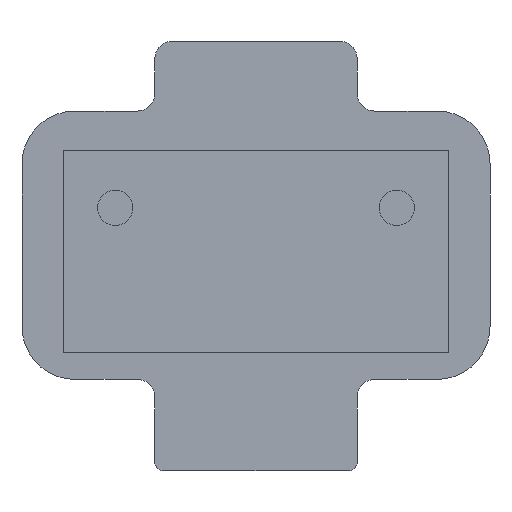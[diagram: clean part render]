
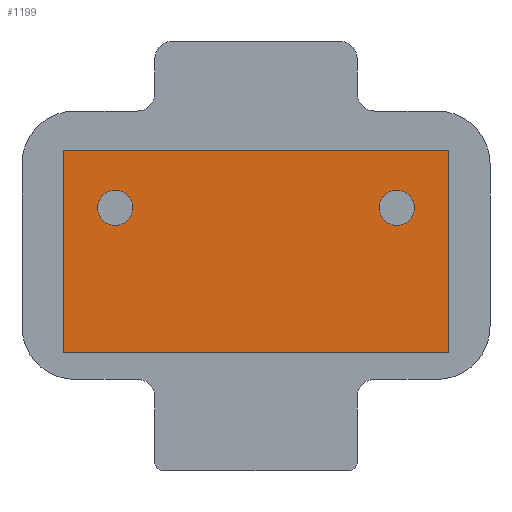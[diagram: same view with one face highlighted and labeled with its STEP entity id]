
A CAD part, front view. The second image highlights one B-rep face of the part: STEP entity #1199.
In plain terms, the highlighted planar face has unit normal (0, -1, 0).
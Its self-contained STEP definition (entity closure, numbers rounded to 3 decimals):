
#42 = ORIENTED_EDGE ( 'NONE', *, *, #6379, .F. ) ;
#385 = EDGE_CURVE ( 'NONE', #8816, #5897, #4876, .T. ) ;
#405 = CARTESIAN_POINT ( 'NONE',  ( -16.916, 1.162, 57.199 ) ) ;
#442 = LINE ( 'NONE', #3177, #4969 ) ;
#550 = CARTESIAN_POINT ( 'NONE',  ( 15.084, 1.162, 57.199 ) ) ;
#735 = EDGE_CURVE ( 'NONE', #3982, #7505, #8423, .T. ) ;
#749 = CARTESIAN_POINT ( 'NONE',  ( 21.584, 1.162, 42.7 ) ) ;
#879 = CARTESIAN_POINT ( 'NONE',  ( -16.916, 1.162, 59.199 ) ) ;
#891 = DIRECTION ( 'NONE',  ( 0., 0., 1. ) ) ;
#933 = LINE ( 'NONE', #5882, #4833 ) ;
#1030 = VERTEX_POINT ( 'NONE', #4109 ) ;
#1199 = ADVANCED_FACE ( 'NONE', ( #2330, #1496, #4246 ), #2936, .F. ) ;
#1397 = CARTESIAN_POINT ( 'NONE',  ( -16.916, 1.162, 59.199 ) ) ;
#1421 = LINE ( 'NONE', #749, #8155 ) ;
#1496 = FACE_BOUND ( 'NONE', #6877, .T. ) ;
#1515 = AXIS2_PLACEMENT_3D ( 'NONE', #1870, #2493, #4438 ) ;
#1565 = EDGE_LOOP ( 'NONE', ( #42, #4115 ) ) ;
#1870 = CARTESIAN_POINT ( 'NONE',  ( 15.084, 1.162, 59.199 ) ) ;
#1926 = EDGE_CURVE ( 'NONE', #8816, #5907, #1421, .T. ) ;
#1943 = CIRCLE ( 'NONE', #1515, 2. ) ;
#1954 = EDGE_CURVE ( 'NONE', #7212, #4529, #4506, .T. ) ;
#2227 = DIRECTION ( 'NONE',  ( -1., 0., 0. ) ) ;
#2330 = FACE_OUTER_BOUND ( 'NONE', #6621, .T. ) ;
#2342 = CIRCLE ( 'NONE', #7384, 2. ) ;
#2493 = DIRECTION ( 'NONE',  ( 0., -1., 0. ) ) ;
#2670 = ORIENTED_EDGE ( 'NONE', *, *, #4228, .F. ) ;
#2685 = ORIENTED_EDGE ( 'NONE', *, *, #735, .F. ) ;
#2708 = CARTESIAN_POINT ( 'NONE',  ( 20.984, 1.162, 76.47 ) ) ;
#2854 = VECTOR ( 'NONE', #4105, 1000. ) ;
#2936 = PLANE ( 'NONE',  #3828 ) ;
#3055 = CARTESIAN_POINT ( 'NONE',  ( 20.984, 1.162, 65.694 ) ) ;
#3152 = ORIENTED_EDGE ( 'NONE', *, *, #1926, .F. ) ;
#3177 = CARTESIAN_POINT ( 'NONE',  ( -22.816, 1.162, 65.694 ) ) ;
#3571 = CARTESIAN_POINT ( 'NONE',  ( -16.362, 1.162, 58.966 ) ) ;
#3626 = ORIENTED_EDGE ( 'NONE', *, *, #4542, .F. ) ;
#3756 = ORIENTED_EDGE ( 'NONE', *, *, #385, .T. ) ;
#3828 = AXIS2_PLACEMENT_3D ( 'NONE', #3571, #6991, #7072 ) ;
#3982 = VERTEX_POINT ( 'NONE', #7774 ) ;
#4105 = DIRECTION ( 'NONE',  ( 0., 0., 1. ) ) ;
#4109 = CARTESIAN_POINT ( 'NONE',  ( -22.816, 1.162, 65.694 ) ) ;
#4115 = ORIENTED_EDGE ( 'NONE', *, *, #1954, .F. ) ;
#4138 = CARTESIAN_POINT ( 'NONE',  ( 15.084, 1.162, 61.199 ) ) ;
#4228 = EDGE_CURVE ( 'NONE', #5907, #1030, #933, .T. ) ;
#4246 = FACE_BOUND ( 'NONE', #1565, .T. ) ;
#4275 = CARTESIAN_POINT ( 'NONE',  ( -22.816, 1.162, 42.7 ) ) ;
#4386 = DIRECTION ( 'NONE',  ( 0., -1., 0. ) ) ;
#4438 = DIRECTION ( 'NONE',  ( -1., 0., 0. ) ) ;
#4506 = CIRCLE ( 'NONE', #5367, 2. ) ;
#4529 = VERTEX_POINT ( 'NONE', #4138 ) ;
#4542 = EDGE_CURVE ( 'NONE', #7505, #3982, #2342, .T. ) ;
#4775 = DIRECTION ( 'NONE',  ( 0., -1., 0. ) ) ;
#4833 = VECTOR ( 'NONE', #891, 1000. ) ;
#4876 = LINE ( 'NONE', #2708, #2854 ) ;
#4936 = CARTESIAN_POINT ( 'NONE',  ( 15.084, 1.162, 59.199 ) ) ;
#4969 = VECTOR ( 'NONE', #8667, 1000. ) ;
#5366 = CARTESIAN_POINT ( 'NONE',  ( 20.984, 1.162, 42.7 ) ) ;
#5367 = AXIS2_PLACEMENT_3D ( 'NONE', #4936, #8209, #2227 ) ;
#5701 = DIRECTION ( 'NONE',  ( -1., 0., 0. ) ) ;
#5882 = CARTESIAN_POINT ( 'NONE',  ( -22.816, 1.162, 44.77 ) ) ;
#5897 = VERTEX_POINT ( 'NONE', #3055 ) ;
#5907 = VERTEX_POINT ( 'NONE', #4275 ) ;
#6379 = EDGE_CURVE ( 'NONE', #4529, #7212, #1943, .T. ) ;
#6443 = EDGE_CURVE ( 'NONE', #1030, #5897, #442, .T. ) ;
#6621 = EDGE_LOOP ( 'NONE', ( #8199, #2670, #3152, #3756 ) ) ;
#6877 = EDGE_LOOP ( 'NONE', ( #2685, #3626 ) ) ;
#6991 = DIRECTION ( 'NONE',  ( 0., 1., 0. ) ) ;
#7072 = DIRECTION ( 'NONE',  ( -1., 0., 0. ) ) ;
#7212 = VERTEX_POINT ( 'NONE', #550 ) ;
#7384 = AXIS2_PLACEMENT_3D ( 'NONE', #1397, #4775, #7423 ) ;
#7423 = DIRECTION ( 'NONE',  ( -1., 0., 0. ) ) ;
#7505 = VERTEX_POINT ( 'NONE', #405 ) ;
#7695 = AXIS2_PLACEMENT_3D ( 'NONE', #879, #4386, #5701 ) ;
#7774 = CARTESIAN_POINT ( 'NONE',  ( -16.916, 1.162, 61.199 ) ) ;
#8155 = VECTOR ( 'NONE', #8392, 1000. ) ;
#8199 = ORIENTED_EDGE ( 'NONE', *, *, #6443, .F. ) ;
#8209 = DIRECTION ( 'NONE',  ( 0., -1., 0. ) ) ;
#8392 = DIRECTION ( 'NONE',  ( -1., 0., 0. ) ) ;
#8423 = CIRCLE ( 'NONE', #7695, 2. ) ;
#8667 = DIRECTION ( 'NONE',  ( 1., 0., 0. ) ) ;
#8816 = VERTEX_POINT ( 'NONE', #5366 ) ;
